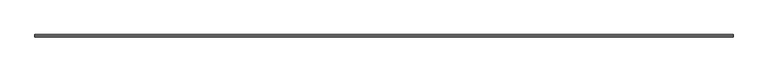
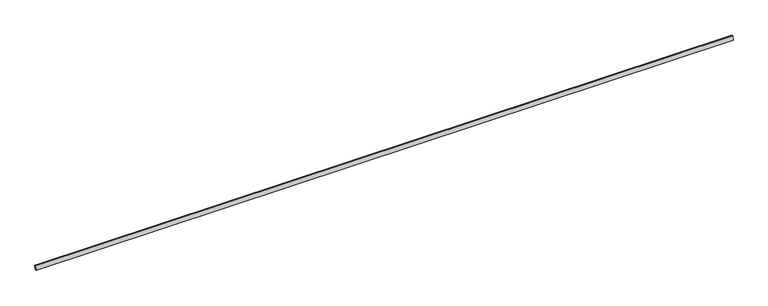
"""IFC4 building model written with IfcOpenShell, lengths in millimetres: proxy geometry, Modelos genéricos 19 : Modelos genéricos 19."""

from ifc_helpers import new_model, si_unit, frame, origin, place, context, project, spatial, polyline, outline, extrude, source, transform, mapped, element, save


def generic_models_c1f13497(model_context):
    return source(origin(), model_context, "Body", "SweptSolid", [
        extrude(outline(polyline([(0.0, -27228.7383178), (0.0, 0.0), (60.0, 0.0), (60.0, -27228.7383178), (0.0, -27228.7383178)])), frame((-13461.5527533, 3268.6238165, 3898.0915281), z_axis=(0.0, 0.2419218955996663, 0.9702957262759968), x_axis=(0.0, 0.9702957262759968, -0.2419218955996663)), (0.0, 0.0, 1.0), 160.0),
    ])


if __name__ == "__main__":
    model = new_model("IFC4")
    model_context = context("Model", 3, world=origin())
    ifc_project = project(units=[si_unit("LENGTHUNIT", "METRE", prefix="MILLI")], contexts=[model_context])
    site = spatial("IfcSite", under=ifc_project)
    building = spatial("IfcBuilding", under=site)
    placement = place(None, origin())
    generic_models_shape = generic_models_c1f13497(model_context)
    element("IfcBuildingElementProxy", 1, Name="Modelos genéricos 19 : Modelos genéricos 19", ObjectType="Modelos genéricos 19 : Modelos genéricos 19", at=placement, inside=building, context=model_context, shape_type="MappedRepresentation", body=[
        mapped(generic_models_shape, transform((0.0, 0.0, 0.0), x_axis=(1.0, 0.0, 0.0), y_axis=(0.0, 1.0, 0.0), z_axis=(0.0, 0.0, 1.0))),
    ])
    save(model, "model.ifc")
